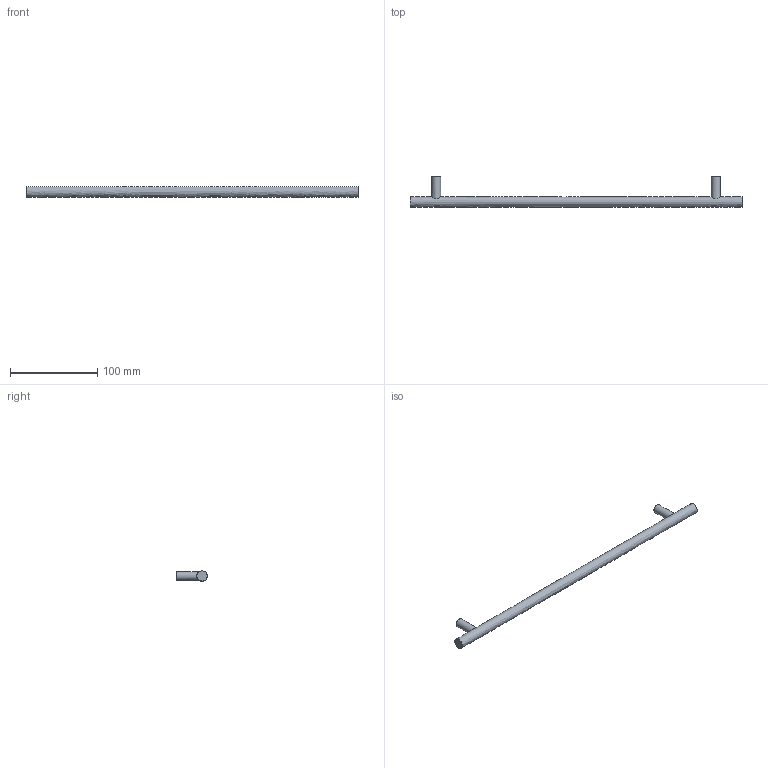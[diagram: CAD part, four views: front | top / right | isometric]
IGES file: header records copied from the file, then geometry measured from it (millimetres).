
Start section: Data from Parasolid IGES Translator 15.0.47, Copyright(c) 2006 Siemens P LM Software. All Rights Reserved.
Global section: file name: 9071021.igs; native system:  By UGS Corp.; preprocessor: XPlus GENERIC/IGES 3.0; author: Noname; organization: Noname; date: 20140122.181321; units: millimetre
Bounding box: 380 x 35 x 12 mm (x, y, z)
Surface area: 16357.2 mm2 (no closed solid volume)
Topology: 0 solids, 0 shells, 11 faces, 30 edges, 22 vertices
Faces by surface type: extrusion 6, revolution 5
